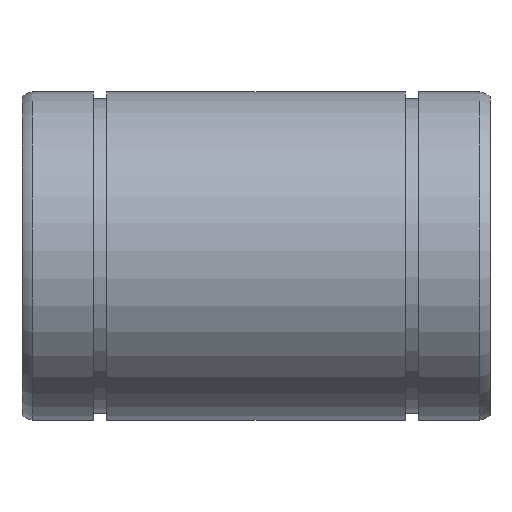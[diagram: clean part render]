
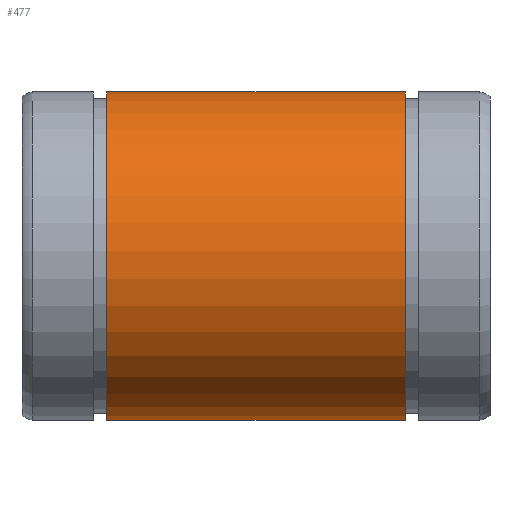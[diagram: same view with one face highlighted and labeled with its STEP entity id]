
A CAD part, front view. The second image highlights one B-rep face of the part: STEP entity #477.
In plain terms, the highlighted cylindrical face has radius 22.5 mm (diameter 45 mm), a partial arc.
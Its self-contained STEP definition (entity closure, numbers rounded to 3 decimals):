
#90=CARTESIAN_POINT('',(11.6,1.5,-22.45));
#91=VERTEX_POINT('',#90);
#98=CARTESIAN_POINT('',(52.4,1.5,-22.45));
#99=VERTEX_POINT('',#98);
#100=CARTESIAN_POINT('',(52.4,1.5,-22.45));
#101=DIRECTION('',(-1.0,0.0,0.0));
#102=VECTOR('',#101,40.8);
#103=LINE('',#100,#102);
#104=EDGE_CURVE('',#99,#91,#103,.T.);
#333=CARTESIAN_POINT('',(52.4,-1.5,-22.45));
#334=VERTEX_POINT('',#333);
#341=CARTESIAN_POINT('',(11.6,-1.5,-22.45));
#342=VERTEX_POINT('',#341);
#343=CARTESIAN_POINT('',(11.6,-1.5,-22.45));
#344=DIRECTION('',(1.0,0.0,0.0));
#345=VECTOR('',#344,40.8);
#346=LINE('',#343,#345);
#347=EDGE_CURVE('',#342,#334,#346,.T.);
#448=CARTESIAN_POINT('',(11.6,0.0,0.));
#449=DIRECTION('',(-1.0,0.0,0.0));
#450=DIRECTION('',(0.0,0.0,1.0));
#451=AXIS2_PLACEMENT_3D('',#448,#449,#450);
#452=CIRCLE('',#451,22.5);
#453=EDGE_CURVE('',#342,#91,#452,.T.);
#460=CARTESIAN_POINT('',(32.,0.0,0.));
#461=DIRECTION('',(-1.0,0.0,0.0));
#462=DIRECTION('',(0.0,0.0,1.0));
#463=AXIS2_PLACEMENT_3D('',#460,#461,#462);
#464=CYLINDRICAL_SURFACE('',#463,22.5);
#465=ORIENTED_EDGE('',*,*,#347,.T.);
#466=CARTESIAN_POINT('',(52.4,0.0,0.));
#467=DIRECTION('',(-1.0,0.0,0.0));
#468=DIRECTION('',(0.0,0.0,1.0));
#469=AXIS2_PLACEMENT_3D('',#466,#467,#468);
#470=CIRCLE('',#469,22.5);
#471=EDGE_CURVE('',#334,#99,#470,.T.);
#472=ORIENTED_EDGE('',*,*,#471,.T.);
#473=ORIENTED_EDGE('',*,*,#104,.T.);
#474=ORIENTED_EDGE('',*,*,#453,.F.);
#475=EDGE_LOOP('',(#465,#472,#473,#474));
#476=FACE_OUTER_BOUND('',#475,.T.);
#477=ADVANCED_FACE('',(#476),#464,.T.);
